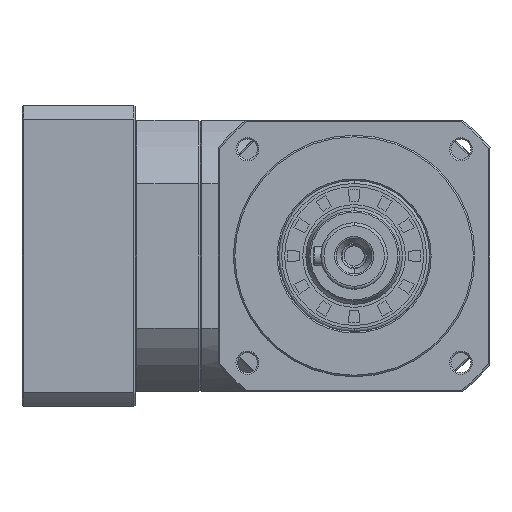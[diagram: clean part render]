
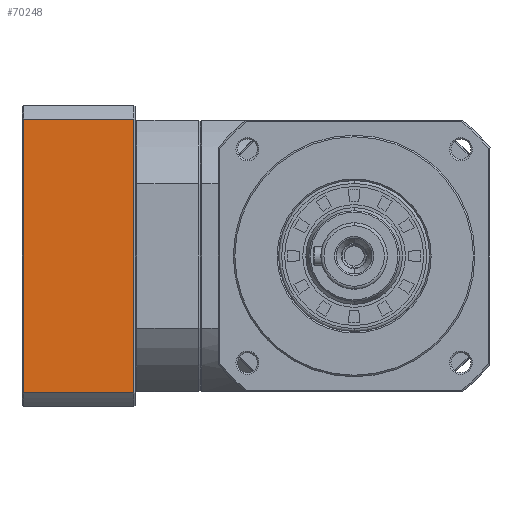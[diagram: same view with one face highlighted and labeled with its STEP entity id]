
A CAD part, left-side view. The second image highlights one B-rep face of the part: STEP entity #70248.
In plain terms, the highlighted planar face has unit normal (1, 0, 0).
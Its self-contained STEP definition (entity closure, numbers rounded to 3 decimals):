
#406 = AXIS2_PLACEMENT_3D ( 'NONE', #5081, #77132, #33613 ) ;
#428 = FACE_OUTER_BOUND ( 'NONE', #85082, .T. ) ;
#1692 = LINE ( 'NONE', #54657, #16412 ) ;
#5081 = CARTESIAN_POINT ( 'NONE',  ( 69., 73., -45.346 ) ) ;
#5162 = DIRECTION ( 'NONE',  ( 0., 1., 0. ) ) ;
#7660 = VECTOR ( 'NONE', #5162, 1000. ) ;
#8468 = CARTESIAN_POINT ( 'NONE',  ( 69., 91.25, 45.346 ) ) ;
#14799 = CARTESIAN_POINT ( 'NONE',  ( 69., 109.5, 0. ) ) ;
#16412 = VECTOR ( 'NONE', #18413, 1000. ) ;
#18413 = DIRECTION ( 'NONE',  ( 0., 0., 1. ) ) ;
#19032 = PLANE ( 'NONE',  #406 ) ;
#21024 = VERTEX_POINT ( 'NONE', #85104 ) ;
#25156 = CARTESIAN_POINT ( 'NONE',  ( 69., 91.25, -45.346 ) ) ;
#29138 = VERTEX_POINT ( 'NONE', #39047 ) ;
#30134 = ORIENTED_EDGE ( 'NONE', *, *, #31869, .F. ) ;
#31869 = EDGE_CURVE ( 'NONE', #71189, #21024, #82014, .T. ) ;
#33613 = DIRECTION ( 'NONE',  ( 0., 0., 1. ) ) ;
#38894 = CARTESIAN_POINT ( 'NONE',  ( 69., 73., 45.346 ) ) ;
#39047 = CARTESIAN_POINT ( 'NONE',  ( 69., 73., -45.346 ) ) ;
#40551 = ORIENTED_EDGE ( 'NONE', *, *, #87760, .T. ) ;
#43495 = VECTOR ( 'NONE', #64321, 1000. ) ;
#43986 = ORIENTED_EDGE ( 'NONE', *, *, #59724, .T. ) ;
#45287 = EDGE_CURVE ( 'NONE', #29138, #92489, #1692, .T. ) ;
#54657 = CARTESIAN_POINT ( 'NONE',  ( 69., 73., 0. ) ) ;
#59724 = EDGE_CURVE ( 'NONE', #29138, #21024, #80319, .T. ) ;
#64321 = DIRECTION ( 'NONE',  ( 0., 0., -1. ) ) ;
#70248 = ADVANCED_FACE ( 'NONE', ( #428 ), #19032, .F. ) ;
#71189 = VERTEX_POINT ( 'NONE', #88579 ) ;
#77132 = DIRECTION ( 'NONE',  ( -1., 0., 0. ) ) ;
#80319 = LINE ( 'NONE', #25156, #7660 ) ;
#82014 = LINE ( 'NONE', #14799, #43495 ) ;
#82058 = DIRECTION ( 'NONE',  ( 0., -1., 0. ) ) ;
#85082 = EDGE_LOOP ( 'NONE', ( #43986, #30134, #40551, #85440 ) ) ;
#85104 = CARTESIAN_POINT ( 'NONE',  ( 69., 109.5, -45.346 ) ) ;
#85440 = ORIENTED_EDGE ( 'NONE', *, *, #45287, .F. ) ;
#87760 = EDGE_CURVE ( 'NONE', #71189, #92489, #93703, .T. ) ;
#88579 = CARTESIAN_POINT ( 'NONE',  ( 69., 109.5, 45.346 ) ) ;
#89108 = VECTOR ( 'NONE', #82058, 1000. ) ;
#92489 = VERTEX_POINT ( 'NONE', #38894 ) ;
#93703 = LINE ( 'NONE', #8468, #89108 ) ;
